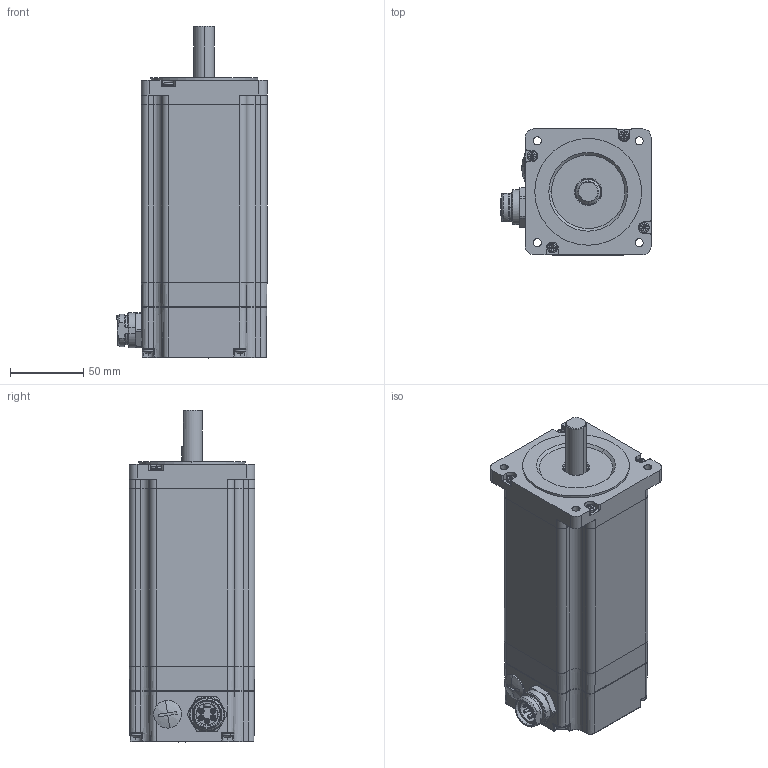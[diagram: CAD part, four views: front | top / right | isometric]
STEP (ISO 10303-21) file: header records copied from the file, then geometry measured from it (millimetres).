
FILE_DESCRIPTION (( 'STEP AP214' ), '1' );
FILE_NAME ('M86SH156-T-C.STEP', '2025-05-24T08:50:11', ( '' ), ( '' ), 'SwSTEP 2.0', 'SolidWorks 2019', '' );
FILE_SCHEMA (( 'AUTOMOTIVE_DESIGN' ));
Length unit declared in the file: millimetre
Products named in the file (1): M86SH156-T-C
Bounding box: 102.58 x 85.9 x 226.95 mm (x, y, z)
Volume: 789733.2 mm3; surface area: 217108 mm2
Topology: 31 solids, 31 shells, 1588 faces, 4014 edges, 2584 vertices
Faces by surface type: plane 664, cylinder 424, cone 189, bspline 179, torus 116, sphere 16
Entity records: 74069 total; most frequent: CARTESIAN_POINT 18187, ORIENTED_EDGE 7996, DIRECTION 7796, EDGE_CURVE 3998, AXIS2_PLACEMENT_3D 2938, VERTEX_POINT 2584, LINE 1920, VECTOR 1920
